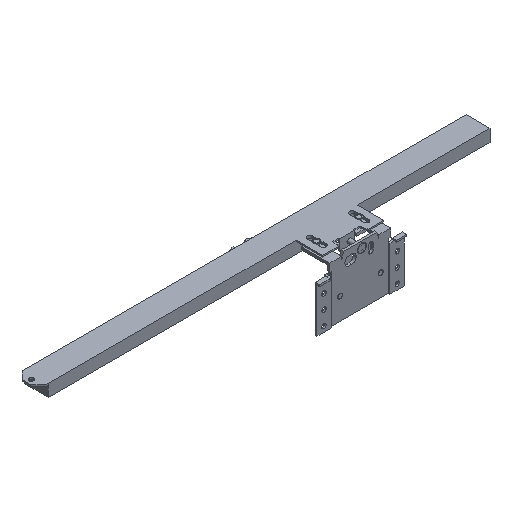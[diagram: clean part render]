
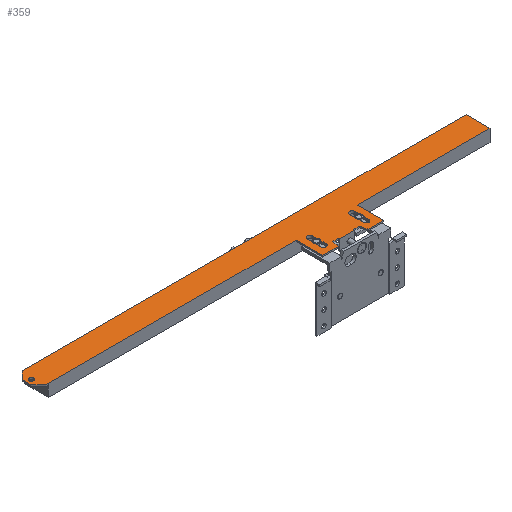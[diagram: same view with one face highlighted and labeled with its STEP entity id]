
A CAD part, isometric view. The second image highlights one B-rep face of the part: STEP entity #359.
In plain terms, the highlighted planar face has unit normal (0, 0, 1).
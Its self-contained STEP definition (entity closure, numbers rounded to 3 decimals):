
#359=ADVANCED_FACE('',(#942,#943,#944,#945),#946,.T.);
#942=FACE_BOUND('',#1809,.T.);
#943=FACE_OUTER_BOUND('',#1810,.T.);
#944=FACE_BOUND('',#1811,.T.);
#945=FACE_BOUND('',#1812,.T.);
#946=PLANE('',#1813);
#1809=EDGE_LOOP('',(#2822,#2823));
#1810=EDGE_LOOP('',(#2824,#2825,#2826,#2827,#2828,#2829,#2830,#2831,#2832,#2833,#2834,#2835,#2836,#2837,#2838,#2839,#2840,#2841));
#1811=EDGE_LOOP('',(#2842,#2843,#2844,#2845));
#1812=EDGE_LOOP('',(#2846,#2847,#2848,#2849));
#1813=AXIS2_PLACEMENT_3D('',#2850,#2851,#2852);
#2822=ORIENTED_EDGE('',*,*,#4919,.T.);
#2823=ORIENTED_EDGE('',*,*,#4952,.T.);
#2824=ORIENTED_EDGE('',*,*,#5016,.T.);
#2825=ORIENTED_EDGE('',*,*,#5020,.T.);
#2826=ORIENTED_EDGE('',*,*,#5010,.T.);
#2827=ORIENTED_EDGE('',*,*,#5000,.T.);
#2828=ORIENTED_EDGE('',*,*,#5035,.T.);
#2829=ORIENTED_EDGE('',*,*,#5037,.F.);
#2830=ORIENTED_EDGE('',*,*,#5027,.F.);
#2831=ORIENTED_EDGE('',*,*,#5005,.T.);
#2832=ORIENTED_EDGE('',*,*,#5008,.T.);
#2833=ORIENTED_EDGE('',*,*,#5013,.T.);
#2834=ORIENTED_EDGE('',*,*,#4996,.T.);
#2835=ORIENTED_EDGE('',*,*,#4963,.T.);
#2836=ORIENTED_EDGE('',*,*,#4971,.T.);
#2837=ORIENTED_EDGE('',*,*,#5018,.T.);
#2838=ORIENTED_EDGE('',*,*,#4942,.F.);
#2839=ORIENTED_EDGE('',*,*,#4974,.T.);
#2840=ORIENTED_EDGE('',*,*,#4976,.F.);
#2841=ORIENTED_EDGE('',*,*,#4959,.T.);
#2842=ORIENTED_EDGE('',*,*,#5038,.T.);
#2843=ORIENTED_EDGE('',*,*,#5039,.T.);
#2844=ORIENTED_EDGE('',*,*,#5040,.T.);
#2845=ORIENTED_EDGE('',*,*,#5041,.T.);
#2846=ORIENTED_EDGE('',*,*,#5042,.T.);
#2847=ORIENTED_EDGE('',*,*,#5043,.T.);
#2848=ORIENTED_EDGE('',*,*,#5044,.T.);
#2849=ORIENTED_EDGE('',*,*,#5045,.T.);
#2850=CARTESIAN_POINT('',(50.0,16.5,29.5));
#2851=DIRECTION('',(0.0,0.0,1.0));
#2852=DIRECTION('',(-1.0,0.0,0.0));
#4919=EDGE_CURVE('',#5856,#5853,#5857,.T.);
#4942=EDGE_CURVE('',#5890,#5892,#5893,.T.);
#4952=EDGE_CURVE('',#5853,#5856,#5907,.T.);
#4959=EDGE_CURVE('',#5918,#5915,#5919,.T.);
#4963=EDGE_CURVE('',#5925,#5923,#5926,.T.);
#4971=EDGE_CURVE('',#5923,#5935,#5937,.T.);
#4974=EDGE_CURVE('',#5890,#5939,#5941,.T.);
#4976=EDGE_CURVE('',#5918,#5939,#5943,.T.);
#4996=EDGE_CURVE('',#5979,#5925,#5980,.T.);
#5000=EDGE_CURVE('',#5985,#5983,#5986,.T.);
#5005=EDGE_CURVE('',#5989,#5991,#5993,.T.);
#5008=EDGE_CURVE('',#5991,#5995,#5997,.T.);
#5010=EDGE_CURVE('',#5999,#5985,#6000,.T.);
#5013=EDGE_CURVE('',#5995,#5979,#6003,.T.);
#5016=EDGE_CURVE('',#5915,#6005,#6007,.T.);
#5018=EDGE_CURVE('',#5935,#5892,#6009,.T.);
#5020=EDGE_CURVE('',#6005,#5999,#6011,.T.);
#5027=EDGE_CURVE('',#5989,#6020,#6021,.T.);
#5035=EDGE_CURVE('',#5983,#6030,#6032,.T.);
#5037=EDGE_CURVE('',#6020,#6030,#6034,.T.);
#5038=EDGE_CURVE('',#6035,#6036,#6037,.T.);
#5039=EDGE_CURVE('',#6036,#6038,#6039,.T.);
#5040=EDGE_CURVE('',#6038,#6040,#6041,.T.);
#5041=EDGE_CURVE('',#6040,#6035,#6042,.T.);
#5042=EDGE_CURVE('',#6043,#6044,#6045,.T.);
#5043=EDGE_CURVE('',#6044,#6046,#6047,.T.);
#5044=EDGE_CURVE('',#6046,#6048,#6049,.T.);
#5045=EDGE_CURVE('',#6048,#6043,#6050,.T.);
#5853=VERTEX_POINT('',#7228);
#5856=VERTEX_POINT('',#7232);
#5857=CIRCLE('',#7233,2.5);
#5890=VERTEX_POINT('',#7280);
#5892=VERTEX_POINT('',#7283);
#5893=LINE('',#7284,#7285);
#5907=CIRCLE('',#7305,2.5);
#5915=VERTEX_POINT('',#7316);
#5918=VERTEX_POINT('',#7320);
#5919=LINE('',#7321,#7322);
#5923=VERTEX_POINT('',#7328);
#5925=VERTEX_POINT('',#7331);
#5926=LINE('',#7332,#7333);
#5935=VERTEX_POINT('',#7346);
#5937=LINE('',#7349,#7350);
#5939=VERTEX_POINT('',#7352);
#5941=LINE('',#7355,#7356);
#5943=LINE('',#7358,#7359);
#5979=VERTEX_POINT('',#7408);
#5980=LINE('',#7409,#7410);
#5983=VERTEX_POINT('',#7414);
#5985=VERTEX_POINT('',#7417);
#5986=LINE('',#7418,#7419);
#5989=VERTEX_POINT('',#7423);
#5991=VERTEX_POINT('',#7426);
#5993=LINE('',#7429,#7430);
#5995=VERTEX_POINT('',#7432);
#5997=LINE('',#7435,#7436);
#5999=VERTEX_POINT('',#7438);
#6000=LINE('',#7439,#7440);
#6003=LINE('',#7444,#7445);
#6005=VERTEX_POINT('',#7447);
#6007=LINE('',#7450,#7451);
#6009=LINE('',#7453,#7454);
#6011=LINE('',#7456,#7457);
#6020=VERTEX_POINT('',#7469);
#6021=LINE('',#7470,#7471);
#6030=VERTEX_POINT('',#7484);
#6032=LINE('',#7487,#7488);
#6034=LINE('',#7490,#7491);
#6035=VERTEX_POINT('',#7492);
#6036=VERTEX_POINT('',#7493);
#6037=LINE('',#7494,#7495);
#6038=VERTEX_POINT('',#7496);
#6039=CIRCLE('',#7497,3.);
#6040=VERTEX_POINT('',#7498);
#6041=LINE('',#7499,#7500);
#6042=CIRCLE('',#7501,3.);
#6043=VERTEX_POINT('',#7502);
#6044=VERTEX_POINT('',#7503);
#6045=LINE('',#7504,#7505);
#6046=VERTEX_POINT('',#7506);
#6047=CIRCLE('',#7507,3.);
#6048=VERTEX_POINT('',#7508);
#6049=LINE('',#7509,#7510);
#6050=CIRCLE('',#7511,3.);
#7228=CARTESIAN_POINT('',(-282.0,52.0,29.5));
#7232=CARTESIAN_POINT('',(-277.0,52.0,29.5));
#7233=AXIS2_PLACEMENT_3D('',#9063,#9064,#9065);
#7280=CARTESIAN_POINT('',(-285.0,57.0,29.5));
#7283=CARTESIAN_POINT('',(-276.0,65.5,29.5));
#7284=CARTESIAN_POINT('',(-152.32,182.309,29.5));
#7285=VECTOR('',#9084,1.0);
#7305=AXIS2_PLACEMENT_3D('',#9094,#9095,#9096);
#7316=CARTESIAN_POINT('',(7.0,38.5,29.5));
#7320=CARTESIAN_POINT('',(-276.0,38.5,29.5));
#7321=CARTESIAN_POINT('',(226.5,38.5,29.5));
#7322=VECTOR('',#9101,1.0);
#7328=CARTESIAN_POINT('',(226.5,38.5,29.5));
#7331=CARTESIAN_POINT('',(76.0,38.5,29.5));
#7332=CARTESIAN_POINT('',(226.5,38.5,29.5));
#7333=VECTOR('',#9105,1.0);
#7346=CARTESIAN_POINT('',(226.5,65.5,29.5));
#7349=CARTESIAN_POINT('',(226.5,65.5,29.5));
#7350=VECTOR('',#9111,1.0);
#7352=CARTESIAN_POINT('',(-285.0,47.0,29.5));
#7355=CARTESIAN_POINT('',(-285.0,38.5,29.5));
#7356=VECTOR('',#9113,1.0);
#7358=CARTESIAN_POINT('',(-152.32,-78.309,29.5));
#7359=VECTOR('',#9114,1.0);
#7408=CARTESIAN_POINT('',(76.0,8.5,29.5));
#7409=CARTESIAN_POINT('',(76.0,8.5,29.5));
#7410=VECTOR('',#9140,1.0);
#7414=CARTESIAN_POINT('',(33.0,16.5,29.5));
#7417=CARTESIAN_POINT('',(26.5,16.5,29.5));
#7418=CARTESIAN_POINT('',(49.0,16.5,29.5));
#7419=VECTOR('',#9143,1.0);
#7423=CARTESIAN_POINT('',(50.0,16.5,29.5));
#7426=CARTESIAN_POINT('',(56.5,16.5,29.5));
#7429=CARTESIAN_POINT('',(49.0,16.5,29.5));
#7430=VECTOR('',#9147,1.0);
#7432=CARTESIAN_POINT('',(58.5,8.5,29.5));
#7435=CARTESIAN_POINT('',(54.647,23.912,29.5));
#7436=VECTOR('',#9149,1.0);
#7438=CARTESIAN_POINT('',(24.5,8.5,29.5));
#7439=CARTESIAN_POINT('',(29.353,27.912,29.5));
#7440=VECTOR('',#9150,1.0);
#7444=CARTESIAN_POINT('',(7.0,8.5,29.5));
#7445=VECTOR('',#9152,1.0);
#7447=CARTESIAN_POINT('',(7.0,8.5,29.5));
#7450=CARTESIAN_POINT('',(7.0,65.5,29.5));
#7451=VECTOR('',#9154,1.0);
#7453=CARTESIAN_POINT('',(-285.0,65.5,29.5));
#7454=VECTOR('',#9155,1.0);
#7456=CARTESIAN_POINT('',(7.0,8.5,29.5));
#7457=VECTOR('',#9156,1.0);
#7469=CARTESIAN_POINT('',(50.0,15.0,29.5));
#7470=CARTESIAN_POINT('',(50.0,16.5,29.5));
#7471=VECTOR('',#9163,1.0);
#7484=CARTESIAN_POINT('',(33.0,15.0,29.5));
#7487=CARTESIAN_POINT('',(33.0,16.5,29.5));
#7488=VECTOR('',#9169,1.0);
#7490=CARTESIAN_POINT('',(33.0,15.0,29.5));
#7491=VECTOR('',#9170,1.0);
#7492=CARTESIAN_POINT('',(20.5,33.5,29.5));
#7493=CARTESIAN_POINT('',(20.5,18.0,29.5));
#7494=CARTESIAN_POINT('',(20.5,27.5,29.5));
#7495=VECTOR('',#9171,1.0);
#7496=CARTESIAN_POINT('',(14.5,18.0,29.5));
#7497=AXIS2_PLACEMENT_3D('',#9172,#9173,#9174);
#7498=CARTESIAN_POINT('',(14.5,33.5,29.5));
#7499=CARTESIAN_POINT('',(14.5,35.25,29.5));
#7500=VECTOR('',#9175,1.0);
#7501=AXIS2_PLACEMENT_3D('',#9176,#9177,#9178);
#7502=CARTESIAN_POINT('',(68.5,33.5,29.5));
#7503=CARTESIAN_POINT('',(68.5,18.0,29.5));
#7504=CARTESIAN_POINT('',(68.5,27.5,29.5));
#7505=VECTOR('',#9179,1.0);
#7506=CARTESIAN_POINT('',(62.5,18.0,29.5));
#7507=AXIS2_PLACEMENT_3D('',#9180,#9181,#9182);
#7508=CARTESIAN_POINT('',(62.5,33.5,29.5));
#7509=CARTESIAN_POINT('',(62.5,35.25,29.5));
#7510=VECTOR('',#9183,1.0);
#7511=AXIS2_PLACEMENT_3D('',#9184,#9185,#9186);
#9063=CARTESIAN_POINT('',(-279.5,52.0,29.5));
#9064=DIRECTION('',(0.0,0.0,-1.0));
#9065=DIRECTION('',(-1.0,0.0,0.0));
#9084=DIRECTION('',(0.727,0.687,0.0));
#9094=CARTESIAN_POINT('',(-279.5,52.0,29.5));
#9095=DIRECTION('',(0.0,0.0,-1.0));
#9096=DIRECTION('',(-1.0,0.0,0.0));
#9101=DIRECTION('',(1.0,0.0,0.0));
#9105=DIRECTION('',(1.0,0.0,0.0));
#9111=DIRECTION('',(0.0,1.0,0.0));
#9113=DIRECTION('',(0.0,-1.0,0.0));
#9114=DIRECTION('',(-0.727,0.687,0.0));
#9140=DIRECTION('',(0.0,1.0,0.0));
#9143=DIRECTION('',(1.0,0.0,0.0));
#9147=DIRECTION('',(1.0,0.0,0.0));
#9149=DIRECTION('',(0.243,-0.97,0.0));
#9150=DIRECTION('',(0.243,0.97,0.0));
#9152=DIRECTION('',(1.0,0.0,0.0));
#9154=DIRECTION('',(0.0,-1.0,0.0));
#9155=DIRECTION('',(-1.0,0.0,0.0));
#9156=DIRECTION('',(1.0,0.0,0.0));
#9163=DIRECTION('',(0.0,-1.0,0.0));
#9169=DIRECTION('',(0.0,-1.0,0.0));
#9170=DIRECTION('',(-1.0,0.0,0.0));
#9171=DIRECTION('',(0.0,-1.0,0.0));
#9172=CARTESIAN_POINT('',(17.5,18.,29.5));
#9173=DIRECTION('',(0.0,0.0,-1.0));
#9174=DIRECTION('',(0.,-1.0,0.0));
#9175=DIRECTION('',(0.0,1.0,0.0));
#9176=CARTESIAN_POINT('',(17.5,33.5,29.5));
#9177=DIRECTION('',(0.0,0.0,-1.0));
#9178=DIRECTION('',(0.,1.0,0.0));
#9179=DIRECTION('',(0.0,-1.0,0.0));
#9180=CARTESIAN_POINT('',(65.5,18.,29.5));
#9181=DIRECTION('',(0.0,0.0,-1.0));
#9182=DIRECTION('',(0.,-1.0,0.0));
#9183=DIRECTION('',(0.0,1.0,0.0));
#9184=CARTESIAN_POINT('',(65.5,33.5,29.5));
#9185=DIRECTION('',(0.0,0.0,-1.0));
#9186=DIRECTION('',(0.,1.0,0.0));
